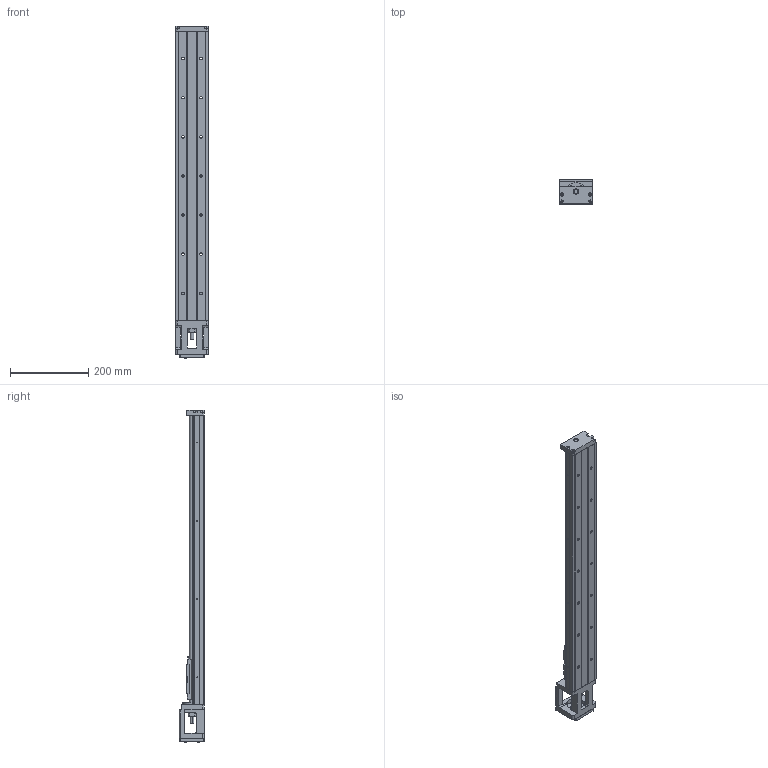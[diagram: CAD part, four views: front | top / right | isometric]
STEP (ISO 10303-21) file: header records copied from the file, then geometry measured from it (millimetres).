
FILE_DESCRIPTION (( 'STEP AP203' ), '1' );
FILE_NAME ('KH86D10C-740A1-F2-Z.STEP', '2024-01-08T08:03:06', ( '' ), ( '' ), 'SwSTEP 2.0', 'SolidWorks 2016', '' );
FILE_SCHEMA (( 'CONFIG_CONTROL_DESIGN' ));
Length unit declared in the file: millimetre
Products named in the file (12): KH86-綴釱-05S_KK86-05-01; ヶ盓釱; 86賑輸; KH86-01-740; KH86-F2; KH86-A1; KH86D10C-740A1-F2-Z
Assembly tree (6 placements, depth 3):
  KH86-綴釱-05S_KK86-05-01
  ヶ盓釱
  86賑輸
  KH86-F2
  KH86D10C-740A1-F2-Z
    KH86-01-740
    KH86-A1
      86賑輸
    KH86-綴釱-05S_KK86-05-01
    KH86-F2
    ヶ盓釱
Bounding box: 86 x 64 x 848 mm (x, y, z)
Volume: 1561684.2 mm3; surface area: 330346.3 mm2
Topology: 6 solids, 7 shells, 645 faces, 1764 edges, 1125 vertices
Faces by surface type: plane 277, cylinder 243, bspline 67, cone 58
Entity records: 24635 total; most frequent: CARTESIAN_POINT 7544, ORIENTED_EDGE 3428, DIRECTION 3168, EDGE_CURVE 1714, VERTEX_POINT 1125, AXIS2_PLACEMENT_3D 1079, LINE 1010, VECTOR 1010
